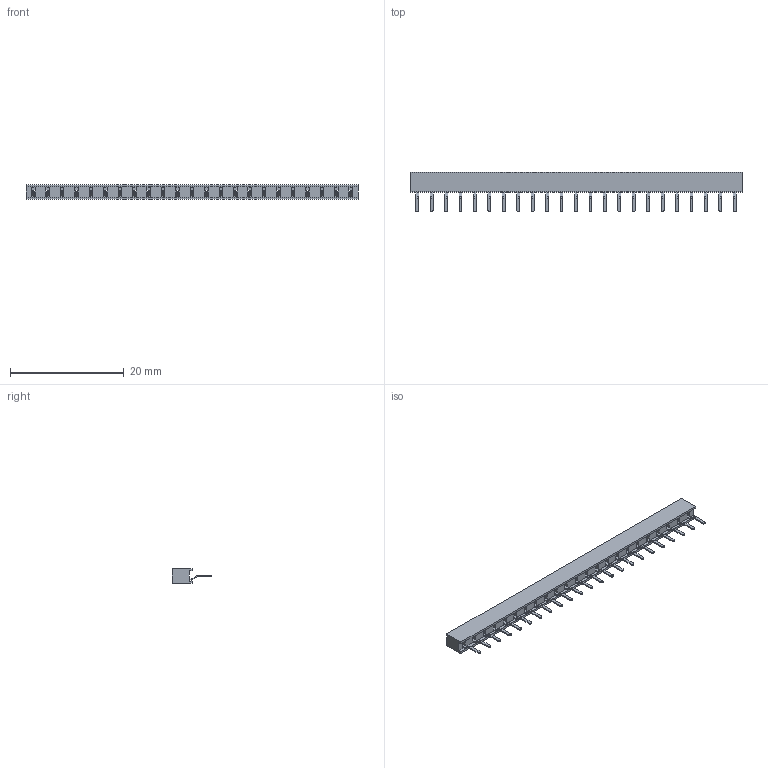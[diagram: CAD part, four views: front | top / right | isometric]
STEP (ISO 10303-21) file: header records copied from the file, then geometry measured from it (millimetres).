
FILE_DESCRIPTION(/* description */ (''),/* implementation_level */ '2;1');
FILE_NAME(/* name */ 'PM254-1-23-Z-3.5-XX(L7.0) (2.54 单排 直排母 塑高3.5-HCTL).stp',/* time_stamp */ '2026-10-24T17:07:36+08:00',/* author */ (''),/* organization */ (''),/* preprocessor_version */ 'ST-DEVELOPER v16',/* originating_system */ 'SIEMENS PLM Software NX 10.0',/* authorisation */ '');
FILE_SCHEMA (('AUTOMOTIVE_DESIGN { 1 0 10303 214 3 1 1 1 }'));
Length unit declared in the file: millimetre
Products named in the file (1): PM254-1-N-Z-3.5-XX(L7.0) (2.54 单排 直排母 
塑高3.5-HCTL)
Bounding box: 58.42 x 7 x 2.5 mm (x, y, z)
Volume: 407.1 mm3; surface area: 1153.4 mm2
Topology: 2 solids, 2 shells, 608 faces, 1676 edges, 1072 vertices
Faces by surface type: plane 493, cylinder 115
Entity records: 19103 total; most frequent: CARTESIAN_POINT 3357, ORIENTED_EDGE 3352, DIRECTION 3124, EDGE_CURVE 1676, LINE 1446, VECTOR 1446, VERTEX_POINT 1072, AXIS2_PLACEMENT_3D 839
